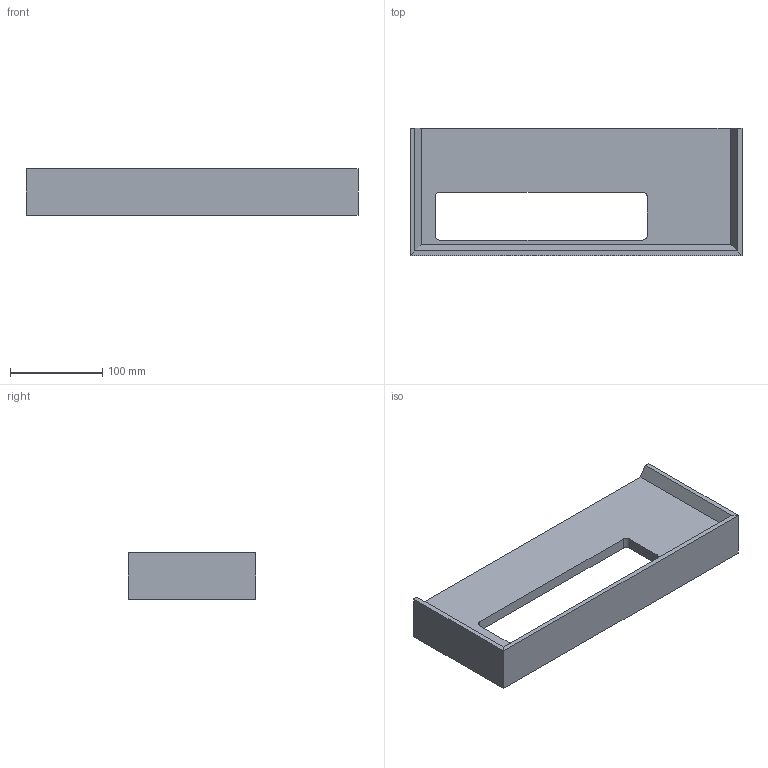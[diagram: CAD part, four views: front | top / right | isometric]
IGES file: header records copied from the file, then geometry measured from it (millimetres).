
Start section: Data from Parasolid IGES Translator 22.0.50, Copyright(c) 2006 Siemens P LM Software. All Rights Reserved.
Global section: file name: noorth-haus-H 5 D 13 W 36_4061.igs; native system: By Siemens PLM Incorporated; preprocessor: XPlus GENERIC/IGES 22.0.50; author: Noname; organization: Noname; date: 20251207.155150; units: metre
Bounding box: 360 x 138 x 50 mm (x, y, z)
Volume: 707142.8 mm3; surface area: 155825.5 mm2
Topology: 4 solids, 4 shells, 35 faces, 81 edges, 54 vertices
Faces by surface type: plane 31, cylinder 4
